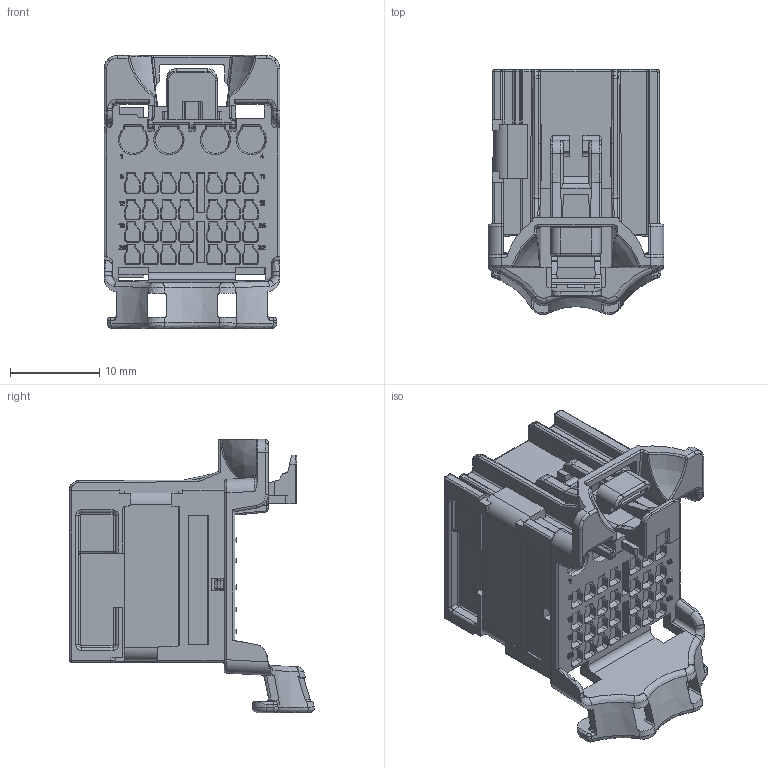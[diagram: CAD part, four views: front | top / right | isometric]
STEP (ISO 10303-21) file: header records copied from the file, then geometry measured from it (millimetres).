
FILE_DESCRIPTION(/* description */ (''),/* implementation_level */ '2;1');
FILE_NAME(/* name */ '1600280014wbm000_01_214.stp',/* time_stamp */ '2022-05-12T20:26:18+06:00',/* author */ (''),/* organization */ (''),/* preprocessor_version */ 'ST-DEVELOPER v16.7',/* originating_system */ 'SIEMENS PLM Software NX 1919',/* authorisation */ '');
FILE_SCHEMA (('AUTOMOTIVE_DESIGN { 1 0 10303 214 3 1 1 1 }'));
Products named in the file (1): 1600280014wbm000_01
Bounding box: 19.7 x 27.39 x 30.58 mm (x, y, z)
Volume: 6217.9 mm3; surface area: 4704.9 mm2
Topology: 1 solids, 1 shells, 3117 faces, 8351 edges, 5312 vertices
Faces by surface type: plane 1877, cylinder 663, bspline 500, torus 40, sphere 21, cone 15, extrusion 1
Entity records: 130203 total; most frequent: CARTESIAN_POINT 55727, ORIENTED_EDGE 16642, DIRECTION 13648, EDGE_CURVE 8321, VECTOR 5974, LINE 5973, VERTEX_POINT 5306, AXIS2_PLACEMENT_3D 3837
